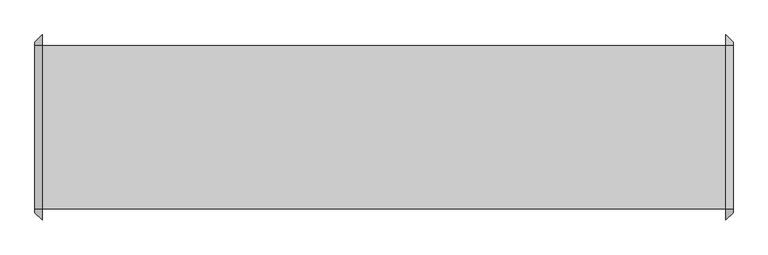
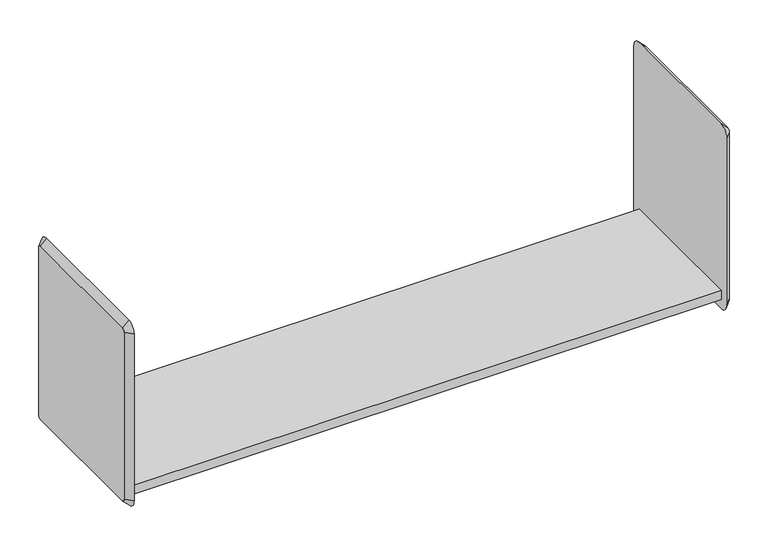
"""IFC4 building model written with IfcOpenShell, lengths in millimetres: furniture geometry."""

from ifc_helpers import new_model, si_unit, frame, origin, place, context, project, spatial, polyline, circle_curve, outline, extrude, source, transform, mapped, element, save
from ifc_brep_helpers import plane_surface, revolved_surface, advanced_brep


def furniture_49c90ff6(model_context):
    return source(origin(), model_context, "Body", "SolidModel", [
        extrude(outline(polyline([(-130.175, 1422.4), (155.575, 1422.4), (155.575, 1419.225), (-127.0, 1419.225), (-127.0, 1403.3152313), (-130.175, 1403.3152313), (-130.175, 1422.4)])), frame((-720.8420045, 0.0, 0.0), z_axis=(1.0, 0.0, 0.0), x_axis=(0.0, 1.0, 0.0)), (0.0, 0.0, 1.0), 1193.8),
        advanced_brep(
        [(485.6579955, 155.575, 1765.3), (485.6579955, -130.175, 1765.3), (485.6579955, -136.525, 1758.95), (485.6579955, -136.525, 1403.35), (485.6579955, -130.175, 1397.0), (485.6579955, 155.575, 1397.0), (485.6579955, 161.925, 1403.35), (485.6579955, 161.925, 1758.95), (472.9579955, 155.575, 1778.0), (472.9579955, 174.625, 1758.95), (472.9579955, 174.625, 1403.35), (472.9579955, 155.575, 1384.3), (472.9579955, -130.175, 1384.3), (472.9579955, -149.225, 1403.35), (472.9579955, -149.225, 1758.95), (472.9579955, -130.175, 1778.0)],
        [
            (0, 1),
            (1, 2, circle_curve(frame((485.6579955, -130.175, 1758.95), z_axis=(1.0, 0.0, 0.0), x_axis=(0.0, 0.0, 1.0)), 6.35)),
            (2, 3),
            (3, 4, circle_curve(frame((485.6579955, -130.175, 1403.35), z_axis=(1.0, -1.2496670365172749e-12, -1.2576606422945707e-12), x_axis=(-1.2496365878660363e-12, -1.0, 0.0)), 6.35)),
            (4, 5),
            (5, 6, circle_curve(frame((485.6579955, 155.575, 1403.35), z_axis=(1.0, -1.2096990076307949e-12, 1.2150280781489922e-12), x_axis=(1.2150945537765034e-12, 0.0, -1.0)), 6.35)),
            (6, 7),
            (7, 0, circle_curve(frame((485.6579955, 155.575, 1758.95), z_axis=(1.0, 0.0, 0.0), x_axis=(0.0, 1.0, 0.0)), 6.35)),
            (8, 9, circle_curve(frame((472.9579955, 155.575, 1758.95), z_axis=(-1.0, 0.0, 0.0), x_axis=(0.0, 1.0, 0.0)), 19.05)),
            (9, 10),
            (10, 11, circle_curve(frame((472.9579955, 155.575, 1403.35), z_axis=(-1.0, 1.2096990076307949e-12, -1.2150280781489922e-12), x_axis=(1.2150945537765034e-12, 0.0, -1.0)), 19.05)),
            (11, 12),
            (12, 13, circle_curve(frame((472.9579955, -130.175, 1403.35), z_axis=(-1.0, 1.2496670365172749e-12, 1.2576606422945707e-12), x_axis=(-1.2496365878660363e-12, -1.0, 0.0)), 19.05)),
            (13, 14),
            (14, 15, circle_curve(frame((472.9579955, -130.175, 1758.95), z_axis=(-1.0, 0.0, 0.0), x_axis=(0.0, 0.0, 1.0)), 19.05)),
            (15, 8),
            (15, 1),
            (0, 8),
            (14, 2),
            (13, 3),
            (12, 4),
            (11, 5),
            (10, 6),
            (9, 7),
        ],
        [
            plane_surface(frame((485.6579955, 12.7, 1581.15), z_axis=(1.0, 0.0, 0.0), x_axis=(0.0, -1.0, 0.0))),
            plane_surface(frame((472.9579955, 12.7, 1581.15), z_axis=(-1.0, 0.0, 0.0), x_axis=(0.0, -1.0, 0.0))),
            plane_surface(frame((472.9579955, 12.7, 1778.0), z_axis=(0.7071067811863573, 0.0, 0.7071067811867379), x_axis=(0.0, -1.0, 0.0))),
            revolved_surface(polyline([(485.6579955, -130.175, 1765.3), (472.9579955, -130.175, 1778.0)]), (492.0079955, -130.175, 1758.95), (-1.0, 0.0, 0.0)),
            plane_surface(frame((472.9579955, -149.225, 1581.15), z_axis=(0.7071067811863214, -0.7071067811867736, 0.0), x_axis=(0.0, 0.0, -1.0))),
            revolved_surface(polyline([(485.6579955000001, -136.52499999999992, 1403.35), (472.95799549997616, -149.2250000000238, 1403.35)]), (492.0079955, -130.175, 1403.35), (-1.0, 1.2496670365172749e-12, 1.2576606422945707e-12)),
            plane_surface(frame((472.9579955, 12.7, 1384.3), z_axis=(0.707106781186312, 0.0, -0.707106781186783), x_axis=(0.0, 1.0, 0.0))),
            revolved_surface(polyline([(485.65799550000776, 155.575, 1397.0000000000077), (472.9579955, 155.575, 1384.3)]), (492.0079955, 155.575, 1403.35), (-1.0, 1.2096990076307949e-12, -1.2150280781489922e-12)),
            plane_surface(frame((472.9579955, 174.625, 1581.15), z_axis=(0.7071067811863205, 0.7071067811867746, 0.0), x_axis=(0.0, 0.0, 1.0))),
            revolved_surface(polyline([(485.6579955, 161.92499999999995, 1758.95), (472.9579955, 174.625, 1758.95)]), (492.0079955, 155.575, 1758.95), (-1.0, 0.0, 0.0)),
        ],
        [
            (0, [[1, 2, 3, 4, 5, 6, 7, 8]]),
            (1, [[9, 10, 11, 12, 13, 14, 15, 16]]),
            (2, [[-16, 17, -1, 18]]),
            (3, [[-15, 19, -2, -17]]),
            (4, [[-14, 20, -3, -19]]),
            (5, [[-13, 21, -4, -20]]),
            (6, [[-12, 22, -5, -21]]),
            (7, [[-11, 23, -6, -22]]),
            (8, [[-10, 24, -7, -23]]),
            (9, [[-9, -18, -8, -24]]),
        ],
    ),
        advanced_brep(
        [(-733.5420045, -130.175, 1765.3), (-733.5420045, 155.575, 1765.3), (-733.5420045, 161.925, 1758.95), (-733.5420045, 161.925, 1403.35), (-733.5420045, 155.575, 1397.0), (-733.5420045, -130.175, 1397.0), (-733.5420045, -136.525, 1403.35), (-733.5420045, -136.525, 1758.95), (-720.8420045, -130.175, 1778.0), (-720.8420045, -149.225, 1758.95), (-720.8420045, -149.225, 1403.35), (-720.8420045, -130.175, 1384.3), (-720.8420045, 155.575, 1384.3), (-720.8420045, 174.625, 1403.35), (-720.8420045, 174.625, 1758.95), (-720.8420045, 155.575, 1778.0)],
        [
            (0, 1),
            (1, 2, circle_curve(frame((-733.5420045, 155.575, 1758.95), z_axis=(-1.0, -1.881161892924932e-12, -1.790567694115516e-12), x_axis=(-1.7905334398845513e-12, 0.0, 1.0)), 6.35)),
            (2, 3),
            (3, 4, circle_curve(frame((-733.5420045, 155.575, 1403.35), z_axis=(-1.0, 0.0, 0.0), x_axis=(0.0, 1.0, 0.0)), 6.35)),
            (4, 5),
            (5, 6, circle_curve(frame((-733.5420045, -130.175, 1403.35), z_axis=(-1.0, 0.0, 0.0), x_axis=(0.0, 0.0, -1.0)), 6.35)),
            (6, 7),
            (7, 0, circle_curve(frame((-733.5420045, -130.175, 1758.95), z_axis=(-1.0, -1.875832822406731e-12, 1.9610979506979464e-12), x_axis=(1.875789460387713e-12, -1.0, 0.0)), 6.35)),
            (8, 9, circle_curve(frame((-720.8420045, -130.175, 1758.95), z_axis=(1.0, 1.875832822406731e-12, -1.9610979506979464e-12), x_axis=(1.875789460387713e-12, -1.0, 0.0)), 19.05)),
            (9, 10),
            (10, 11, circle_curve(frame((-720.8420045, -130.175, 1403.35), z_axis=(1.0, 0.0, 0.0), x_axis=(0.0, 0.0, -1.0)), 19.05)),
            (11, 12),
            (12, 13, circle_curve(frame((-720.8420045, 155.575, 1403.35), z_axis=(1.0, 0.0, 0.0), x_axis=(0.0, 1.0, 0.0)), 19.05)),
            (13, 14),
            (14, 15, circle_curve(frame((-720.8420045, 155.575, 1758.95), z_axis=(1.0, 1.881161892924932e-12, 1.790567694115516e-12), x_axis=(-1.7905334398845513e-12, 0.0, 1.0)), 19.05)),
            (15, 8),
            (15, 1),
            (0, 8),
            (14, 2),
            (13, 3),
            (12, 4),
            (11, 5),
            (10, 6),
            (9, 7),
        ],
        [
            plane_surface(frame((-733.5420045, 12.7, 1581.15), z_axis=(-1.0, 0.0, 0.0), x_axis=(0.0, -1.0, 0.0))),
            plane_surface(frame((-720.8420045, 12.7, 1581.15), z_axis=(1.0, 0.0, 0.0), x_axis=(0.0, -1.0, 0.0))),
            plane_surface(frame((-720.8420045, 12.7, 1778.0), z_axis=(-0.7071067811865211, 0.0, 0.7071067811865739), x_axis=(0.0, 1.0, 0.0))),
            revolved_surface(polyline([(-733.5420045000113, 155.575, 1765.2999999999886), (-720.8420044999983, 155.575, 1778.0000000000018)]), (-739.8920045, 155.575, 1758.95), (1.0, 1.881161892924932e-12, 1.790567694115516e-12)),
            plane_surface(frame((-720.8420045, 174.625, 1581.15), z_axis=(-0.7071067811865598, 0.7071067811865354, 0.0), x_axis=(0.0, 0.0, -1.0))),
            revolved_surface(polyline([(-733.5420045, 161.92500000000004, 1403.35), (-720.8420045, 174.625, 1403.35)]), (-739.8920045, 155.575, 1403.35), (1.0, 0.0, 0.0)),
            plane_surface(frame((-720.8420045, 12.7, 1384.3), z_axis=(-0.7071067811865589, 0.0, -0.7071067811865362), x_axis=(0.0, -1.0, 0.0))),
            revolved_surface(polyline([(-733.5420045, -130.175, 1397.0), (-720.8420045, -130.175, 1384.3)]), (-739.8920045, -130.175, 1403.35), (1.0, 0.0, 0.0)),
            plane_surface(frame((-720.8420045, -149.225, 1581.15), z_axis=(-0.7071067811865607, -0.7071067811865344, 0.0), x_axis=(0.0, 0.0, 1.0))),
            revolved_surface(polyline([(-733.5420045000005, -136.5249999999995, 1758.95), (-720.8420044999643, -149.22500000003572, 1758.95)]), (-739.8920045, -130.175, 1758.95), (1.0, 1.875832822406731e-12, -1.9610979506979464e-12)),
        ],
        [
            (0, [[1, 2, 3, 4, 5, 6, 7, 8]]),
            (1, [[9, 10, 11, 12, 13, 14, 15, 16]]),
            (2, [[-16, 17, -1, 18]]),
            (3, [[-15, 19, -2, -17]]),
            (4, [[-14, 20, -3, -19]]),
            (5, [[-13, 21, -4, -20]]),
            (6, [[-12, 22, -5, -21]]),
            (7, [[-11, 23, -6, -22]]),
            (8, [[-10, 24, -7, -23]]),
            (9, [[-9, -18, -8, -24]]),
        ],
    ),
    ])


if __name__ == "__main__":
    model = new_model("IFC4")
    model_context = context("Model", 3, world=origin())
    ifc_project = project(units=[si_unit("LENGTHUNIT", "METRE", prefix="MILLI")], contexts=[model_context])
    site = spatial("IfcSite", under=ifc_project)
    building = spatial("IfcBuilding", under=site)
    placement = place(None, origin())
    furniture_shape = furniture_49c90ff6(model_context)
    element("IfcFurniture", 1, ObjectType="HermanMiller_Ethospace_E3230_B-StyleShelf : 15-1/2\"H x 13\"D x 48\"W", at=placement, inside=building, context=model_context, shape_type="MappedRepresentation", body=[
        mapped(furniture_shape, transform((0.0, 0.0, 0.0), x_axis=(1.0, 0.0, 0.0), y_axis=(0.0, 1.0, 0.0), z_axis=(0.0, 0.0, 1.0))),
    ])
    save(model, "model.ifc")
